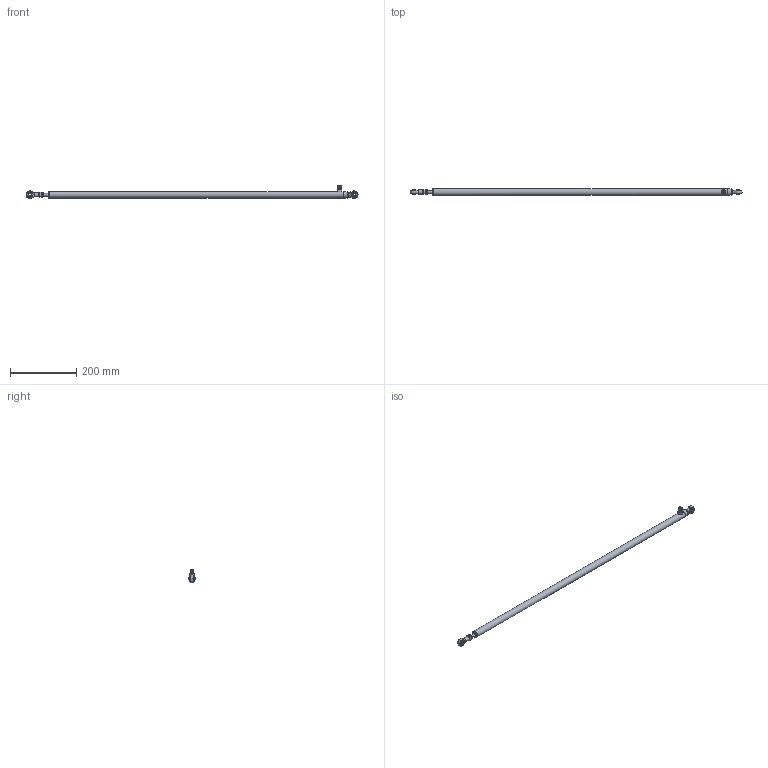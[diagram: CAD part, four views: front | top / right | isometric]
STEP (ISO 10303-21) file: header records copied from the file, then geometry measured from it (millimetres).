
FILE_DESCRIPTION( ( 'STEP AP214' ), '1' );
FILE_NAME( 'N:/Engineering/CAD_Solid/LVDT/SL/Kunden-3D-Modell/SL600-G-SR.stp', '2011-12-12T15:05:07', ( ' ' ), ( ' ' ), 'XStep 1.0', ' ', ' ' );
FILE_SCHEMA( ( 'CONFIG_CONTROL_DESIGN) ( )' ) );
Length unit declared in the file: metre
Products named in the file (10): 1; 2; 3; 4; 5; 6; 7; 8; 9; 10
Bounding box: 1004 x 20 x 40.99 mm (x, y, z)
Volume: 1908.6 mm3; surface area: 66676.3 mm2
Topology: 2 solids, 78 shells, 90 faces, 376 edges, 340 vertices
Faces by surface type: plane 40, cone 22, cylinder 21, bspline 4, sphere 2, torus 1
Full cylindrical faces by diameter (mm): 2 x4, 8 x3, 10.5 x1, 12.5 x1, 14 x1, 20 x3
Entity records: 8362 total; most frequent: CARTESIAN_POINT 5495, DIRECTION 559, ORIENTED_EDGE 328, EDGE_CURVE 316, VERTEX_POINT 316, AXIS2_PLACEMENT_3D 240, EDGE_LOOP 144, CIRCLE 142
